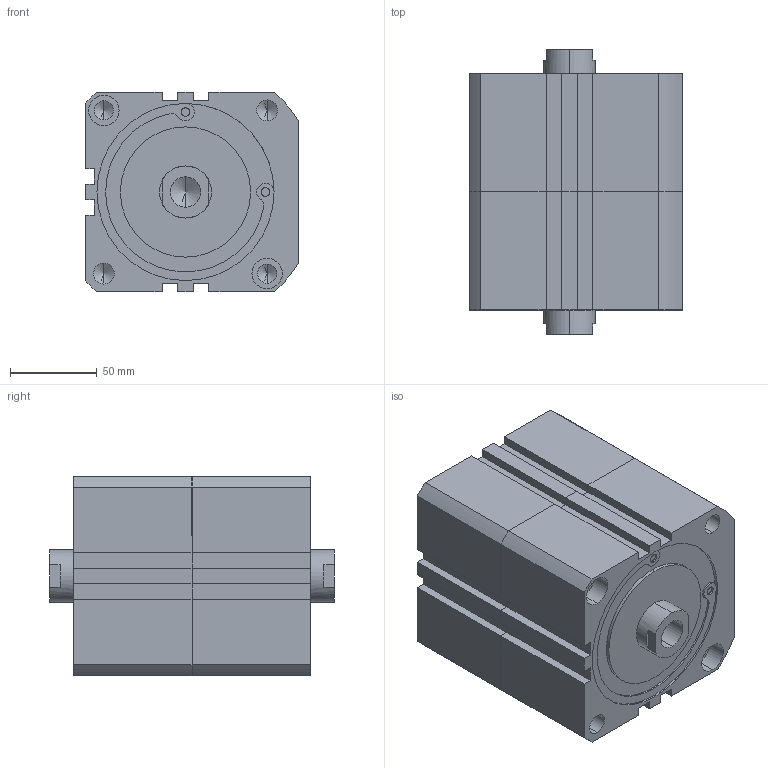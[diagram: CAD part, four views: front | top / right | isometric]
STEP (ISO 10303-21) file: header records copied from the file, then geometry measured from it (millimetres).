
FILE_DESCRIPTION (( 'STEP AP203' ), '1' );
FILE_NAME ('XCD7-100-10-10(L).STEP', '2016-08-05T01:41:16', ( '' ), ( '' ), 'SwSTEP 2.0', 'SolidWorks 2014', '' );
FILE_SCHEMA (( 'CONFIG_CONTROL_DESIGN' ));
Length unit declared in the file: millimetre
Products named in the file (2): XCD7(L)-100-10; XCD7-100-10-10(L)
Assembly tree (2 placements, depth 2):
  XCD7-100-10-10(L)
    XCD7(L)-100-10  x2
Bounding box: 122.5 x 164 x 115 mm (x, y, z)
Volume: 1756706.1 mm3; surface area: 155182.2 mm2
Topology: 2 solids, 2 shells, 222 faces, 558 edges, 348 vertices
Faces by surface type: cylinder 94, plane 92, cone 36
Entity records: 3478 total; most frequent: DIRECTION 604, CARTESIAN_POINT 555, ORIENTED_EDGE 530, EDGE_CURVE 265, AXIS2_PLACEMENT_3D 223, VERTEX_POINT 174, VECTOR 158, LINE 158
